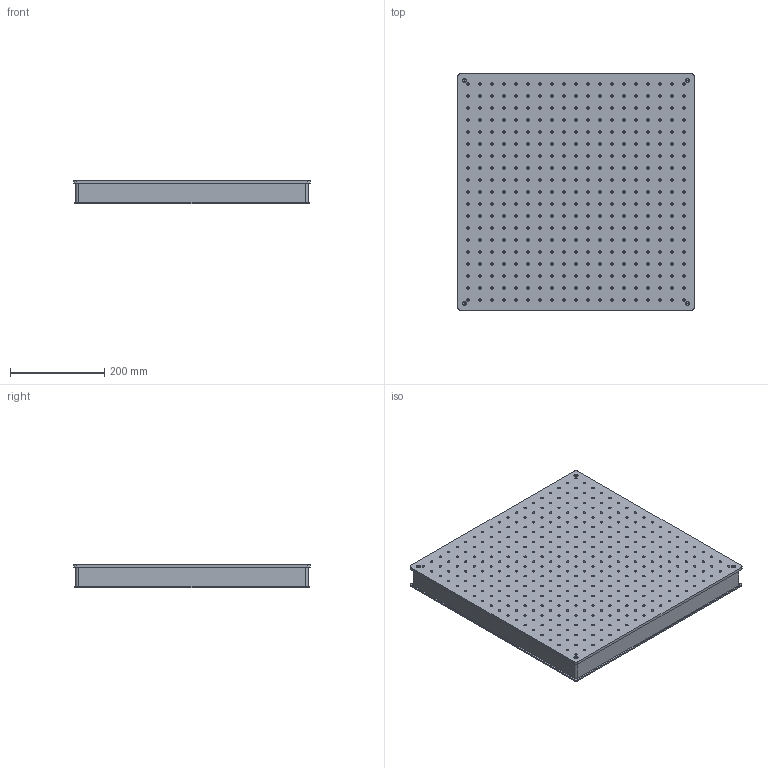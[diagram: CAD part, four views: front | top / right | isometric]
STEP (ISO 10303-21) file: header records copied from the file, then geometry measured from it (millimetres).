
FILE_DESCRIPTION(/* description */ (''),/* implementation_level */ '2;1');
FILE_NAME(/* name */ 'U:\KONSTRUKTORIAI\DOKUMENTACIJA\1\1HB-AL\1HB-AL-05-05-05-BL\step\1HB-AL-E-05-05-05-BL.stp',/* time_stamp */ '2018-02-15T15:24:34+02:00',/* author */ ('dsgn31'),/* organization */ (''),/* preprocessor_version */ 'ST-DEVELOPER v15.2',/* originating_system */ 'Autodesk Inventor 2014',/* authorisation */ '');
FILE_SCHEMA (('AUTOMOTIVE_DESIGN { 1 0 10303 214 3 1 1 }'));
Length unit declared in the file: inch
Products named in the file (1): 1HB-AL-E-05-05-05_Shrinkwrap_1
Bounding box: 500 x 500 x 50 mm (x, y, z)
Volume: 12128921.6 mm3; surface area: 646671.1 mm2
Topology: 1 solids, 7 shells, 854 faces, 1417 edges, 948 vertices
Faces by surface type: plane 429, cylinder 409, cone 16
Full cylindrical faces by diameter (mm): 4 x8, 4.5 x8, 4.917 x365
Entity records: 18457 total; most frequent: DIRECTION 3506, CARTESIAN_POINT 2819, ORIENTED_EDGE 1972, AXIS2_PLACEMENT_3D 1697, EDGE_LOOP 1634, EDGE_CURVE 986, VERTEX_POINT 914, ADVANCED_FACE 854
